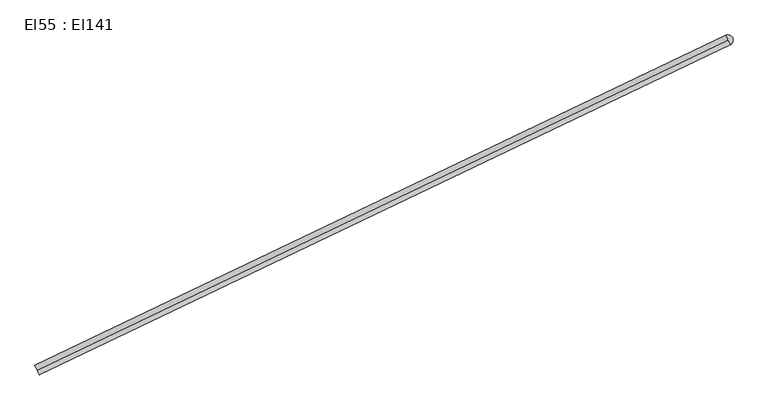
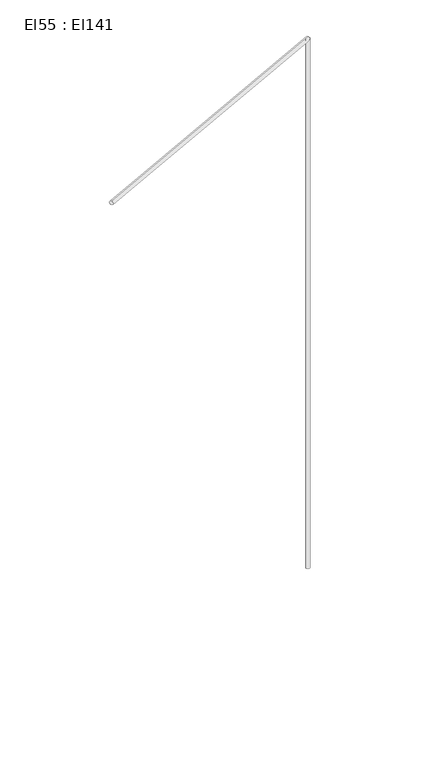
"""IFC4 building model written with IfcOpenShell, lengths in millimetres: cable carrier segment geometry, El55 : El141."""

import ifcopenshell
import ifcopenshell.guid

model = None  # the IFC model being written
_history = None  # IfcOwnerHistory: only IFC2X3 demands one
_inside = {}  # id of a spatial element -> (the spatial element, [elements in it])
_under = {}  # id of a project, library or spatial element -> (it, [spatial elements below it])
_declared = {}  # id of a project -> (the project, [libraries it declares])
_typed = {}  # id of a type object -> (the type object, [elements of that type])
_made_of = {}  # id of a material, layer set ... -> (it, [elements and type objects made of it])


def new_model(schema):
    """Start an empty IFC model of exactly this schema.

    Asked for "IFC4X3", IfcOpenShell would pick the latest addendum, in which some entities
    have other attributes; the version numbers below select the first issue.
    IFC2X3 requires an IfcOwnerHistory on every rooted entity: one is made here for all.
    """
    global model, _history
    if schema == "IFC4X3":
        model = ifcopenshell.file(schema_version=(4, 3, 0, 0))
    else:
        model = ifcopenshell.file(schema=schema)
    _inside.clear()
    _under.clear()
    _declared.clear()
    _typed.clear()
    _made_of.clear()
    _history = None
    if model.schema == "IFC2X3":
        org = make("IfcOrganization", Name="unknown")
        user = make(
            "IfcPersonAndOrganization",
            ThePerson=make("IfcPerson", FamilyName="unknown"),
            TheOrganization=org,
        )
        app = make(
            "IfcApplication",
            ApplicationDeveloper=org,
            Version="unknown",
            ApplicationFullName="unknown",
            ApplicationIdentifier="unknown",
        )
        _history = make(
            "IfcOwnerHistory",
            OwningUser=user,
            OwningApplication=app,
            ChangeAction="ADDED",
            CreationDate=0,
        )
    return model


def make(cls, **values):
    """One entity of the class cls with the attributes given. An attribute that is None is left unset."""
    return model.create_entity(
        cls, **{name: value for name, value in values.items() if value is not None}
    )


def rooted(cls, **values):
    """An entity with a GlobalId (a new one), such as an element, a storey or a relation."""
    return make(cls, GlobalId=ifcopenshell.guid.new(), OwnerHistory=_history, **values)


def si_unit(unit_type, name, prefix=None):
    """IfcSIUnit, for example si_unit("LENGTHUNIT", "METRE", prefix="MILLI")."""
    return make("IfcSIUnit", UnitType=unit_type, Prefix=prefix, Name=name)


def assignment(units):
    """IfcUnitAssignment: the units of a project."""
    return None if units is None else make("IfcUnitAssignment", Units=units)


def point(xyz):
    """IfcCartesianPoint."""
    return None if xyz is None else make("IfcCartesianPoint", Coordinates=xyz)


def direction(xyz):
    """IfcDirection."""
    return None if xyz is None else make("IfcDirection", DirectionRatios=xyz)


def frame(location, z_axis=None, x_axis=None):
    """IfcAxis2Placement3D, a coordinate frame: its origin and axes. An axis left out is left unset."""
    return make(
        "IfcAxis2Placement3D",
        Location=point(location),
        Axis=direction(z_axis),
        RefDirection=direction(x_axis),
    )


def frame_2d(location, x_axis=None):
    """IfcAxis2Placement2D, a coordinate frame in the plane: its origin and x axis."""
    return make(
        "IfcAxis2Placement2D", Location=point(location), RefDirection=direction(x_axis)
    )


def origin():
    """The frame at (0, 0, 0) with its axes left unset."""
    return frame((0.0, 0.0, 0.0))


def place(relative_to, where):
    """IfcLocalPlacement: puts the frame where relative to a parent placement (None: the world)."""
    return make(
        "IfcLocalPlacement", PlacementRelTo=relative_to, RelativePlacement=where
    )


def context(
    kind, dimensions, precision=None, world=None, true_north=None, identifier=None
):
    """IfcGeometricRepresentationContext, for example the 3D "Model" context."""
    return make(
        "IfcGeometricRepresentationContext",
        ContextIdentifier=identifier,
        ContextType=kind,
        CoordinateSpaceDimension=dimensions,
        Precision=precision,
        WorldCoordinateSystem=world,
        TrueNorth=true_north,
    )


def project(units=None, contexts=None):
    """IfcProject with its units and contexts."""
    return rooted(
        "IfcProject",
        Name="project",
        RepresentationContexts=contexts,
        UnitsInContext=assignment(units),
    )


def spatial(cls, under=None, at=None, **own):
    """A site, building, storey or space (cls), placed at a placement, below another one or the project."""
    s = rooted(cls, ObjectPlacement=at, **own)
    if under is not None:
        _under.setdefault(under.id(), (under, []))[1].append(s)
    return s


def circle_curve(where, radius):
    """IfcCircle in the frame where."""
    return make("IfcCircle", Position=where, Radius=radius)


def trimmed(basis, trim1, trim2, sense, master):
    """IfcTrimmedCurve: the piece of a basis curve between two trims."""
    return make(
        "IfcTrimmedCurve",
        BasisCurve=basis,
        Trim1=trim1,
        Trim2=trim2,
        SenseAgreement=sense,
        MasterRepresentation=master,
    )


def segment(curve, same_sense, transition):
    """IfcCompositeCurveSegment."""
    return make(
        "IfcCompositeCurveSegment",
        Transition=transition,
        SameSense=same_sense,
        ParentCurve=curve,
    )


def composite_curve(segments, self_intersect=None):
    """IfcCompositeCurve: segments joined end to end."""
    return make("IfcCompositeCurve", Segments=segments, SelfIntersect=self_intersect)


def outline(outer, holes=None, kind="AREA"):
    """IfcArbitraryClosedProfileDef: a profile drawn as a closed curve; with holes, ...WithVoids."""
    if holes is None:
        return make("IfcArbitraryClosedProfileDef", ProfileType=kind, OuterCurve=outer)
    return make(
        "IfcArbitraryProfileDefWithVoids",
        ProfileType=kind,
        OuterCurve=outer,
        InnerCurves=holes,
    )


def extrude(swept, where, along, depth):
    """IfcExtrudedAreaSolid: the profile swept, set in the frame where, extruded along a direction by depth."""
    return make(
        "IfcExtrudedAreaSolid",
        SweptArea=swept,
        Position=where,
        ExtrudedDirection=direction(along),
        Depth=depth,
    )


def shape(context_of_items, identifier, shape_type, items):
    """IfcShapeRepresentation: the items that make up one representation, for example the "Body"."""
    return make(
        "IfcShapeRepresentation",
        ContextOfItems=context_of_items,
        RepresentationIdentifier=identifier,
        RepresentationType=shape_type,
        Items=items,
    )


def source(mapping_origin, context_of_items, identifier, shape_type, items):
    """IfcRepresentationMap: a shape defined once, which mapped items show again and again."""
    return make(
        "IfcRepresentationMap",
        MappingOrigin=mapping_origin,
        MappedRepresentation=shape(context_of_items, identifier, shape_type, items),
    )


def transform(
    local_origin,
    x_axis=None,
    y_axis=None,
    z_axis=None,
    scale=None,
    scale2=None,
    scale3=None,
    uniform=True,
):
    """IfcCartesianTransformationOperator3D, or its non-uniform kind. x_axis, y_axis, z_axis: its Axis1, 2, 3."""
    if uniform:
        return make(
            "IfcCartesianTransformationOperator3D",
            Axis1=direction(x_axis),
            Axis2=direction(y_axis),
            LocalOrigin=point(local_origin),
            Scale=scale,
            Axis3=direction(z_axis),
        )
    return make(
        "IfcCartesianTransformationOperator3DnonUniform",
        Axis1=direction(x_axis),
        Axis2=direction(y_axis),
        LocalOrigin=point(local_origin),
        Scale=scale,
        Axis3=direction(z_axis),
        Scale2=scale2,
        Scale3=scale3,
    )


def mapped(mapping_source, mapping_target):
    """IfcMappedItem: shows the shape of a source again, moved by a transform."""
    return make(
        "IfcMappedItem", MappingSource=mapping_source, MappingTarget=mapping_target
    )


def made_of(thing, what):
    """Note that an element or type object is made of a material, layer set ...; save() writes the relation."""
    if what is not None:
        _made_of.setdefault(what.id(), (what, []))[1].append(thing)
    return thing


def element(
    cls,
    number,
    at=None,
    inside=None,
    cuts=None,
    type_object=None,
    material=None,
    context=None,
    identifier="Body",
    shape_type=None,
    held_by="IfcProductDefinitionShape",
    body=None,
    shapes=None,
    **own,
):
    """One element of the class cls, such as IfcWall. Its Tag is "e" and its number.

    at: its placement. inside: the storey or other place that contains it. cuts: it is an
    opening in that element (IfcRelVoidsElement). A single representation is given by context,
    identifier, shape_type and body (its items); several are given by shapes. held_by: the class
    of the entity that holds the representations. save() writes the other relations.
    """
    e = rooted(cls, Tag="e%d" % number, ObjectPlacement=at, **own)
    if body is not None:
        shapes = [shape(context, identifier, shape_type, body)]
    if shapes is not None:
        e.Representation = make(held_by, Representations=shapes)
    if inside is not None:
        _inside.setdefault(inside.id(), (inside, []))[1].append(e)
    if cuts is not None:
        rooted(
            "IfcRelVoidsElement", RelatingBuildingElement=cuts, RelatedOpeningElement=e
        )
    if type_object is not None:
        _typed.setdefault(type_object.id(), (type_object, []))[1].append(e)
    return made_of(e, material)


def aggregate(whole, parts):
    """IfcRelAggregates: a whole, such as a stair, and the parts it consists of."""
    return rooted("IfcRelAggregates", RelatingObject=whole, RelatedObjects=parts)


def save(model, path):
    """Write the relations noted so far, then the file.

    IfcRelAggregates (storeys below a building ...), IfcRelContainedInSpatialStructure (elements
    in a storey), IfcRelDefinesByType, IfcRelAssociatesMaterial and IfcRelDeclares: one each for
    every whole, place, type object, material and project.
    """
    for whole, parts in _under.values():
        aggregate(whole, parts)
    for where, things in _inside.values():
        rooted(
            "IfcRelContainedInSpatialStructure",
            RelatedElements=things,
            RelatingStructure=where,
        )
    for kind, things in _typed.values():
        rooted("IfcRelDefinesByType", RelatedObjects=things, RelatingType=kind)
    for what, things in _made_of.values():
        rooted("IfcRelAssociatesMaterial", RelatedObjects=things, RelatingMaterial=what)
    for by, libraries in _declared.values():
        rooted("IfcRelDeclares", RelatingContext=by, RelatedDefinitions=libraries)
    model.write(path)


def el55_el141_fa197d17(model_context):
    return source(origin(), model_context, "Body", "SweptSolid", [
        extrude(outline(composite_curve([segment(trimmed(circle_curve(frame_2d((25094.4446511, 2936.9791745)), 9.5), [point((25084.9446511, 2936.9791745))], [point((25103.9446511, 2936.9791745))], False, "CARTESIAN"), True, "CONTINUOUS"), segment(trimmed(circle_curve(frame_2d((25094.4446511, 2936.9791745)), 9.5), [point((25103.9446511, 2936.9791745))], [point((25084.9446511, 2936.9791745))], False, "CARTESIAN"), True, "CONTINUOUS")], self_intersect=False)), frame((0.0, 0.0, 1830.0), z_axis=(0.0, 0.0, 1.0), x_axis=(1.0, 0.0, 0.0)), (0.0, 0.0, 1.0), 2620.0),
        extrude(outline(composite_curve([segment(trimmed(circle_curve(frame_2d((0.0, -9.5)), 9.5), [point((0.0, -19.0))], [point((0.0, 0.0))], False, "CARTESIAN"), True, "CONTINUOUS"), segment(trimmed(circle_curve(frame_2d((0.0, -9.5)), 9.5), [point((0.0, 0.0))], [point((0.0, -19.0))], False, "CARTESIAN"), True, "CONTINUOUS")], self_intersect=False)), frame((23822.4996511, 2329.3171745, 4459.5), z_axis=(0.9023164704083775, 0.43107422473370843, 0.0), x_axis=(-0.43107422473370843, 0.9023164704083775, 0.0)), (0.0, 0.0, 1.0), 1409.64),
    ])


if __name__ == "__main__":
    model = new_model("IFC4")
    model_context = context("Model", 3, world=origin())
    ifc_project = project(units=[si_unit("LENGTHUNIT", "METRE", prefix="MILLI")], contexts=[model_context])
    site = spatial("IfcSite", under=ifc_project)
    building = spatial("IfcBuilding", under=site)
    placement = place(None, origin())
    el55_el141_shape = el55_el141_fa197d17(model_context)
    element("IfcCableCarrierSegment", 1, ObjectType="El55 : El141", at=placement, inside=building, context=model_context, shape_type="MappedRepresentation", body=[
        mapped(el55_el141_shape, transform((0.0, 0.0, 0.0), x_axis=(1.0, 0.0, 0.0), y_axis=(0.0, 1.0, 0.0), z_axis=(0.0, 0.0, 1.0))),
    ])
    save(model, "model.ifc")
